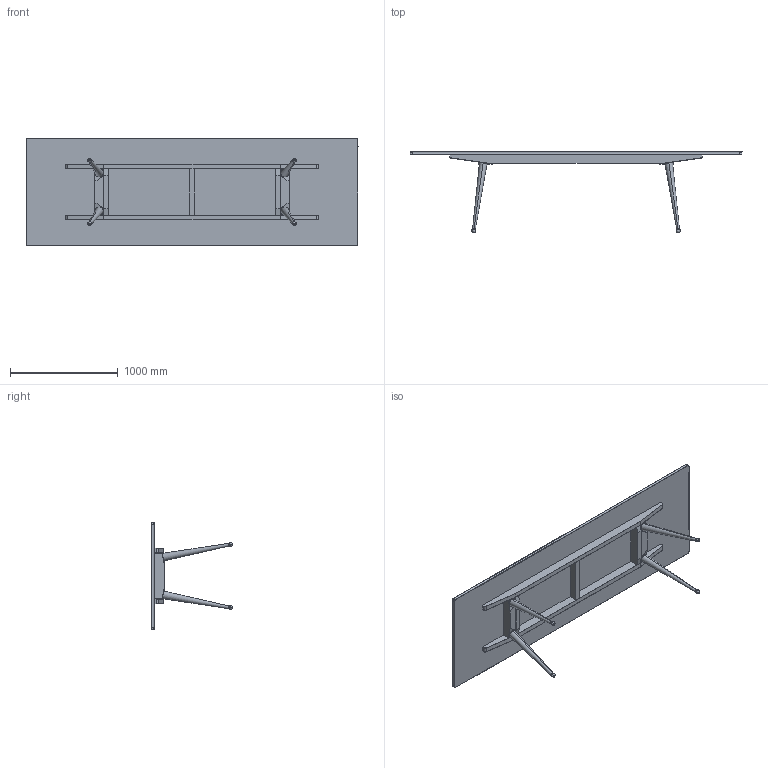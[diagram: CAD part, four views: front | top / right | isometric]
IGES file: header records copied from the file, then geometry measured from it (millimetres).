
Start section: SolidWorks IGES file using analytic representation for surfaces
Global section: file name: C:\Users\David.BDLE\Desktop\Novos produtos\408G Tavli Table_vd\408G Tavli Table_vd_mesa prmt.IGS; native system: SolidWorks 2016; preprocessor: SolidWorks 2016; author: David; date: 201021.095905; units: millimetre
Bounding box: 3083.35 x 754.32 x 1000 mm (x, y, z)
Surface area: 7830262.1 mm2 (no closed solid volume)
Topology: 0 solids, 0 shells, 241 faces, 2430 edges, 2420 vertices
Faces by surface type: bspline 133, revolution 108
